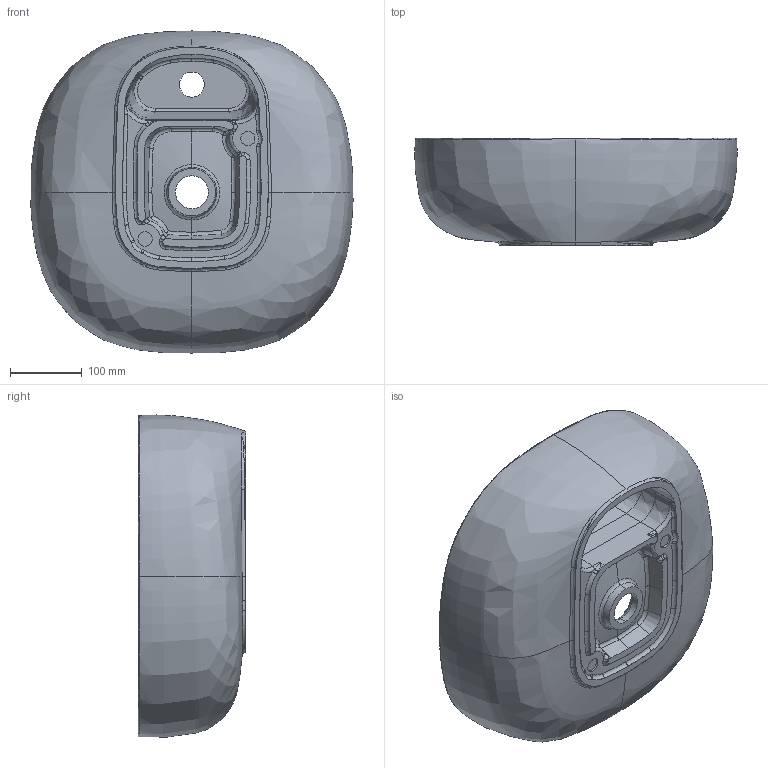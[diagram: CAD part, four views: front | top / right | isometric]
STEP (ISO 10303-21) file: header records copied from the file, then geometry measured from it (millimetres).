
FILE_DESCRIPTION (( 'STEP AP203' ), '1' );
FILE_NAME ('ELLA045450ZM.STEP', '2019-09-13T09:12:13', ( '' ), ( '' ), 'SwSTEP 2.0', 'SolidWorks 2019', '' );
FILE_SCHEMA (( 'CONFIG_CONTROL_DESIGN' ));
Products named in the file (1): ELLA045450ZM
Bounding box: 449.41 x 150 x 449.17 mm (x, y, z)
Volume: 9254509.4 mm3; surface area: 639877.3 mm2
Topology: 1 solids, 1 shells, 248 faces, 618 edges, 370 vertices
Faces by surface type: bspline 140, cone 39, torus 35, plane 15, cylinder 14, sphere 5
Entity records: 29952 total; most frequent: CARTESIAN_POINT 24993, ORIENTED_EDGE 1220, DIRECTION 773, EDGE_CURVE 610, VERTEX_POINT 368, AXIS2_PLACEMENT_3D 362, B_SPLINE_CURVE_WITH_KNOTS 306, EDGE_LOOP 256
